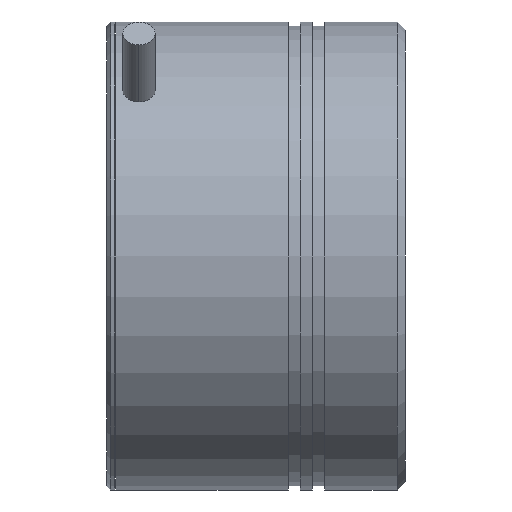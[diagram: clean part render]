
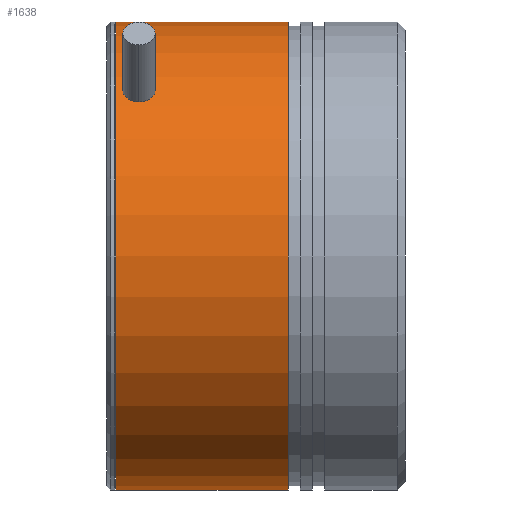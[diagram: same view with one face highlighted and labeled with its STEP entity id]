
A CAD part, left-side view. The second image highlights one B-rep face of the part: STEP entity #1638.
In plain terms, the highlighted cylindrical face has radius 29 mm (diameter 58 mm), a partial arc.
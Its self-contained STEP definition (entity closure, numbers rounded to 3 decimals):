
#63 = CARTESIAN_POINT ( 'NONE',  ( 0., -22.5, -29. ) ) ;
#152 = CIRCLE ( 'NONE', #1010, 29. ) ;
#284 = EDGE_LOOP ( 'NONE', ( #2629, #603, #1114, #525 ) ) ;
#347 = CARTESIAN_POINT ( 'NONE',  ( 0., -1.1, -29. ) ) ;
#455 = VECTOR ( 'NONE', #1339, 1000. ) ;
#519 = CARTESIAN_POINT ( 'NONE',  ( 0., -63.498, -29. ) ) ;
#525 = ORIENTED_EDGE ( 'NONE', *, *, #2216, .F. ) ;
#593 = DIRECTION ( 'NONE',  ( 0., -1., 0. ) ) ;
#597 = DIRECTION ( 'NONE',  ( 0., -1., 0. ) ) ;
#603 = ORIENTED_EDGE ( 'NONE', *, *, #1958, .T. ) ;
#604 = CARTESIAN_POINT ( 'NONE',  ( 0., -22.5, 0. ) ) ;
#613 = DIRECTION ( 'NONE',  ( 0., -1., 0. ) ) ;
#629 = DIRECTION ( 'NONE',  ( 0., 0., -1. ) ) ;
#668 = VERTEX_POINT ( 'NONE', #1770 ) ;
#776 = CARTESIAN_POINT ( 'NONE',  ( 0., -22.5, 29. ) ) ;
#814 = EDGE_CURVE ( 'NONE', #668, #1389, #1380, .T. ) ;
#849 = CARTESIAN_POINT ( 'NONE',  ( 0., -1.1, 0. ) ) ;
#882 = AXIS2_PLACEMENT_3D ( 'NONE', #604, #613, #2072 ) ;
#954 = VERTEX_POINT ( 'NONE', #347 ) ;
#1010 = AXIS2_PLACEMENT_3D ( 'NONE', #849, #1218, #629 ) ;
#1114 = ORIENTED_EDGE ( 'NONE', *, *, #2704, .T. ) ;
#1218 = DIRECTION ( 'NONE',  ( 0., -1., 0. ) ) ;
#1339 = DIRECTION ( 'NONE',  ( 0., -1., 0. ) ) ;
#1380 = LINE ( 'NONE', #2687, #455 ) ;
#1381 = VECTOR ( 'NONE', #597, 1000. ) ;
#1389 = VERTEX_POINT ( 'NONE', #776 ) ;
#1444 = LINE ( 'NONE', #519, #1381 ) ;
#1603 = FACE_OUTER_BOUND ( 'NONE', #284, .T. ) ;
#1638 = ADVANCED_FACE ( 'NONE', ( #1603 ), #2628, .T. ) ;
#1770 = CARTESIAN_POINT ( 'NONE',  ( 0., -1.1, 29. ) ) ;
#1958 = EDGE_CURVE ( 'NONE', #668, #954, #152, .T. ) ;
#1985 = DIRECTION ( 'NONE',  ( 0., 0., -1. ) ) ;
#2072 = DIRECTION ( 'NONE',  ( 0., 0., -1. ) ) ;
#2079 = AXIS2_PLACEMENT_3D ( 'NONE', #2646, #593, #1985 ) ;
#2216 = EDGE_CURVE ( 'NONE', #1389, #2344, #2712, .T. ) ;
#2344 = VERTEX_POINT ( 'NONE', #63 ) ;
#2628 = CYLINDRICAL_SURFACE ( 'NONE', #2079, 29. ) ;
#2629 = ORIENTED_EDGE ( 'NONE', *, *, #814, .F. ) ;
#2646 = CARTESIAN_POINT ( 'NONE',  ( 0., -63.498, 0. ) ) ;
#2687 = CARTESIAN_POINT ( 'NONE',  ( 0., -63.498, 29. ) ) ;
#2704 = EDGE_CURVE ( 'NONE', #954, #2344, #1444, .T. ) ;
#2712 = CIRCLE ( 'NONE', #882, 29. ) ;
